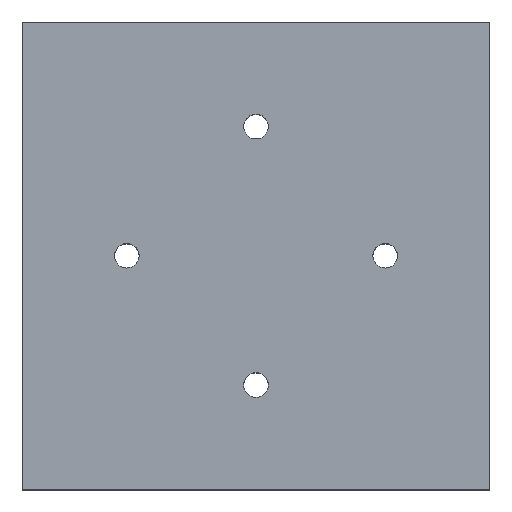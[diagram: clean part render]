
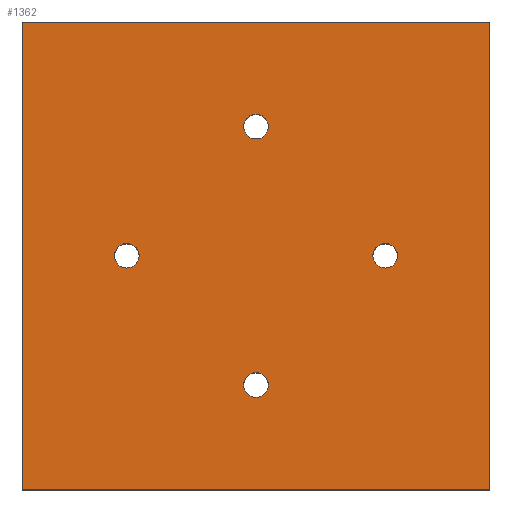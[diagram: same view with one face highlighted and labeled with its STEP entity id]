
A CAD part, top view. The second image highlights one B-rep face of the part: STEP entity #1362.
In plain terms, the highlighted planar face has unit normal (0, 0, 1).
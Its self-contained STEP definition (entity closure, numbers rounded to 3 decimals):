
#50 = AXIS2_PLACEMENT_3D ( 'NONE', #1918, #1243, #1754 ) ;
#72 = CARTESIAN_POINT ( 'NONE',  ( 0., 0., 10. ) ) ;
#77 = ORIENTED_EDGE ( 'NONE', *, *, #1274, .T. ) ;
#83 = CIRCLE ( 'NONE', #1865, 1. ) ;
#97 = PLANE ( 'NONE',  #1246 ) ;
#119 = CIRCLE ( 'NONE', #1379, 1. ) ;
#124 = CIRCLE ( 'NONE', #358, 1. ) ;
#138 = VERTEX_POINT ( 'NONE', #907 ) ;
#158 = ORIENTED_EDGE ( 'NONE', *, *, #743, .F. ) ;
#173 = VERTEX_POINT ( 'NONE', #876 ) ;
#186 = VECTOR ( 'NONE', #728, 1000. ) ;
#195 = ORIENTED_EDGE ( 'NONE', *, *, #1146, .F. ) ;
#205 = ORIENTED_EDGE ( 'NONE', *, *, #1142, .F. ) ;
#214 = ORIENTED_EDGE ( 'NONE', *, *, #630, .F. ) ;
#269 = FACE_OUTER_BOUND ( 'NONE', #1794, .T. ) ;
#272 = VERTEX_POINT ( 'NONE', #510 ) ;
#311 = CARTESIAN_POINT ( 'NONE',  ( 0., 0., 10. ) ) ;
#317 = EDGE_LOOP ( 'NONE', ( #195, #1589 ) ) ;
#337 = EDGE_CURVE ( 'NONE', #1188, #1555, #1292, .T. ) ;
#353 = DIRECTION ( 'NONE',  ( 0., 0., 1. ) ) ;
#358 = AXIS2_PLACEMENT_3D ( 'NONE', #1878, #1057, #1228 ) ;
#361 = VECTOR ( 'NONE', #786, 1000. ) ;
#425 = CARTESIAN_POINT ( 'NONE',  ( 20., 8.5, 10. ) ) ;
#428 = CARTESIAN_POINT ( 'NONE',  ( 19., 8.5, 10. ) ) ;
#442 = DIRECTION ( 'NONE',  ( 0., 0., 1. ) ) ;
#482 = ORIENTED_EDGE ( 'NONE', *, *, #337, .T. ) ;
#486 = DIRECTION ( 'NONE',  ( 1., 0., 0. ) ) ;
#496 = DIRECTION ( 'NONE',  ( 0., 0., 1. ) ) ;
#504 = LINE ( 'NONE', #1467, #1659 ) ;
#510 = CARTESIAN_POINT ( 'NONE',  ( 28.5, 19., 10. ) ) ;
#511 = DIRECTION ( 'NONE',  ( 0., 1., 0. ) ) ;
#513 = CARTESIAN_POINT ( 'NONE',  ( 29.5, 19., 10. ) ) ;
#521 = DIRECTION ( 'NONE',  ( 0., 0., 1. ) ) ;
#527 = CIRCLE ( 'NONE', #1829, 1. ) ;
#554 = DIRECTION ( 'NONE',  ( 1., 0., 0. ) ) ;
#573 = CARTESIAN_POINT ( 'NONE',  ( 8.5, 19., 10. ) ) ;
#574 = EDGE_LOOP ( 'NONE', ( #214, #1501 ) ) ;
#624 = FACE_BOUND ( 'NONE', #317, .T. ) ;
#630 = EDGE_CURVE ( 'NONE', #1509, #927, #1517, .T. ) ;
#657 = CARTESIAN_POINT ( 'NONE',  ( 30.5, 19., 10. ) ) ;
#661 = EDGE_CURVE ( 'NONE', #927, #1509, #119, .T. ) ;
#728 = DIRECTION ( 'NONE',  ( 0., -1., 0. ) ) ;
#743 = EDGE_CURVE ( 'NONE', #272, #1729, #943, .T. ) ;
#751 = DIRECTION ( 'NONE',  ( 0., 0., -1. ) ) ;
#786 = DIRECTION ( 'NONE',  ( -1., 0., 0. ) ) ;
#787 = DIRECTION ( 'NONE',  ( -1., 0., 0. ) ) ;
#825 = EDGE_LOOP ( 'NONE', ( #158, #1190 ) ) ;
#858 = VERTEX_POINT ( 'NONE', #1392 ) ;
#876 = CARTESIAN_POINT ( 'NONE',  ( 9.5, 19., 10. ) ) ;
#886 = EDGE_CURVE ( 'NONE', #173, #138, #83, .T. ) ;
#890 = LINE ( 'NONE', #72, #186 ) ;
#907 = CARTESIAN_POINT ( 'NONE',  ( 7.5, 19., 10. ) ) ;
#927 = VERTEX_POINT ( 'NONE', #425 ) ;
#933 = LINE ( 'NONE', #1067, #361 ) ;
#943 = CIRCLE ( 'NONE', #1209, 1. ) ;
#958 = CARTESIAN_POINT ( 'NONE',  ( 38., 0., 10. ) ) ;
#979 = DIRECTION ( 'NONE',  ( 1., 0., 0. ) ) ;
#1013 = CARTESIAN_POINT ( 'NONE',  ( 19., 29.5, 10. ) ) ;
#1057 = DIRECTION ( 'NONE',  ( 0., 0., 1. ) ) ;
#1067 = CARTESIAN_POINT ( 'NONE',  ( 0., 38., 10. ) ) ;
#1142 = EDGE_CURVE ( 'NONE', #1159, #858, #1283, .T. ) ;
#1146 = EDGE_CURVE ( 'NONE', #138, #173, #527, .T. ) ;
#1159 = VERTEX_POINT ( 'NONE', #1667 ) ;
#1186 = CARTESIAN_POINT ( 'NONE',  ( 18., 8.5, 10. ) ) ;
#1188 = VERTEX_POINT ( 'NONE', #1458 ) ;
#1190 = ORIENTED_EDGE ( 'NONE', *, *, #1289, .F. ) ;
#1209 = AXIS2_PLACEMENT_3D ( 'NONE', #513, #496, #1807 ) ;
#1225 = DIRECTION ( 'NONE',  ( 1., 0., 0. ) ) ;
#1228 = DIRECTION ( 'NONE',  ( 1., 0., 0. ) ) ;
#1230 = DIRECTION ( 'NONE',  ( 1., 0., 0. ) ) ;
#1243 = DIRECTION ( 'NONE',  ( 0., 0., 1. ) ) ;
#1246 = AXIS2_PLACEMENT_3D ( 'NONE', #1423, #751, #787 ) ;
#1249 = AXIS2_PLACEMENT_3D ( 'NONE', #1013, #2021, #554 ) ;
#1251 = FACE_BOUND ( 'NONE', #574, .T. ) ;
#1274 = EDGE_CURVE ( 'NONE', #2106, #1188, #890, .T. ) ;
#1283 = CIRCLE ( 'NONE', #1768, 1. ) ;
#1289 = EDGE_CURVE ( 'NONE', #1729, #272, #124, .T. ) ;
#1292 = LINE ( 'NONE', #311, #1902 ) ;
#1317 = EDGE_LOOP ( 'NONE', ( #205, #2088 ) ) ;
#1362 = ADVANCED_FACE ( 'NONE', ( #269, #1432, #1441, #624, #1251 ), #97, .F. ) ;
#1366 = DIRECTION ( 'NONE',  ( 0., 0., 1. ) ) ;
#1379 = AXIS2_PLACEMENT_3D ( 'NONE', #428, #442, #1225 ) ;
#1392 = CARTESIAN_POINT ( 'NONE',  ( 20., 29.5, 10. ) ) ;
#1423 = CARTESIAN_POINT ( 'NONE',  ( 0., 0., 10. ) ) ;
#1432 = FACE_BOUND ( 'NONE', #1317, .T. ) ;
#1441 = FACE_BOUND ( 'NONE', #825, .T. ) ;
#1458 = CARTESIAN_POINT ( 'NONE',  ( 0., 0., 10. ) ) ;
#1467 = CARTESIAN_POINT ( 'NONE',  ( 38., 0., 10. ) ) ;
#1474 = CARTESIAN_POINT ( 'NONE',  ( 38., 38., 10. ) ) ;
#1501 = ORIENTED_EDGE ( 'NONE', *, *, #661, .F. ) ;
#1509 = VERTEX_POINT ( 'NONE', #1186 ) ;
#1510 = CARTESIAN_POINT ( 'NONE',  ( 0., 38., 10. ) ) ;
#1517 = CIRCLE ( 'NONE', #50, 1. ) ;
#1555 = VERTEX_POINT ( 'NONE', #958 ) ;
#1589 = ORIENTED_EDGE ( 'NONE', *, *, #886, .F. ) ;
#1619 = DIRECTION ( 'NONE',  ( 1., 0., 0. ) ) ;
#1659 = VECTOR ( 'NONE', #511, 1000. ) ;
#1667 = CARTESIAN_POINT ( 'NONE',  ( 18., 29.5, 10. ) ) ;
#1696 = CIRCLE ( 'NONE', #1249, 1. ) ;
#1699 = EDGE_CURVE ( 'NONE', #1555, #1767, #504, .T. ) ;
#1729 = VERTEX_POINT ( 'NONE', #657 ) ;
#1754 = DIRECTION ( 'NONE',  ( 1., 0., 0. ) ) ;
#1767 = VERTEX_POINT ( 'NONE', #1474 ) ;
#1768 = AXIS2_PLACEMENT_3D ( 'NONE', #1990, #521, #979 ) ;
#1792 = CARTESIAN_POINT ( 'NONE',  ( 8.5, 19., 10. ) ) ;
#1794 = EDGE_LOOP ( 'NONE', ( #77, #482, #1847, #2090 ) ) ;
#1807 = DIRECTION ( 'NONE',  ( 1., 0., 0. ) ) ;
#1829 = AXIS2_PLACEMENT_3D ( 'NONE', #1792, #353, #486 ) ;
#1847 = ORIENTED_EDGE ( 'NONE', *, *, #1699, .T. ) ;
#1865 = AXIS2_PLACEMENT_3D ( 'NONE', #573, #1366, #1230 ) ;
#1871 = EDGE_CURVE ( 'NONE', #858, #1159, #1696, .T. ) ;
#1878 = CARTESIAN_POINT ( 'NONE',  ( 29.5, 19., 10. ) ) ;
#1902 = VECTOR ( 'NONE', #1619, 1000. ) ;
#1918 = CARTESIAN_POINT ( 'NONE',  ( 19., 8.5, 10. ) ) ;
#1981 = EDGE_CURVE ( 'NONE', #1767, #2106, #933, .T. ) ;
#1990 = CARTESIAN_POINT ( 'NONE',  ( 19., 29.5, 10. ) ) ;
#2021 = DIRECTION ( 'NONE',  ( 0., 0., 1. ) ) ;
#2088 = ORIENTED_EDGE ( 'NONE', *, *, #1871, .F. ) ;
#2090 = ORIENTED_EDGE ( 'NONE', *, *, #1981, .T. ) ;
#2106 = VERTEX_POINT ( 'NONE', #1510 ) ;
